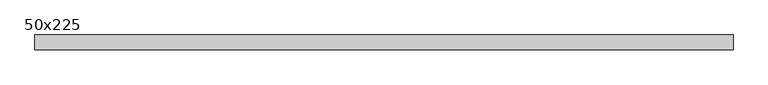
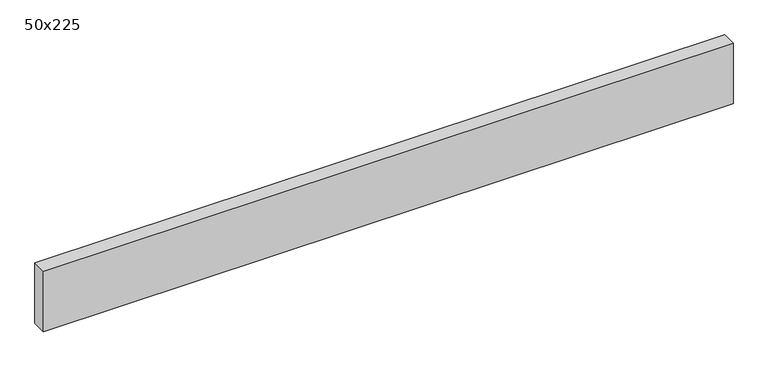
"""IFC4 building model written with IfcOpenShell, lengths in millimetres: beam geometry, Graded Timber : 50x225."""

from ifc_helpers import new_model, si_unit, frame, origin, place, context, project, spatial, polyline, outline, extrude, source, transform, mapped, element, save


def beam_50x225_8d1551ed(model_context):
    return source(origin(), model_context, "Body", "SweptSolid", [
        extrude(outline(polyline([(1183.0, 25.0), (1183.0, -25.0), (-1183.0, -25.0), (-1183.0, 25.0), (1183.0, 25.0)])), frame((0.0, 0.0, -110.0), z_axis=(0.0, 0.0, 1.0), x_axis=(1.0, 0.0, 0.0)), (0.0, 0.0, 1.0), 220.0),
    ])


if __name__ == "__main__":
    model = new_model("IFC4")
    model_context = context("Model", 3, world=origin())
    ifc_project = project(units=[si_unit("LENGTHUNIT", "METRE", prefix="MILLI")], contexts=[model_context])
    site = spatial("IfcSite", under=ifc_project)
    building = spatial("IfcBuilding", under=site)
    placement = place(None, origin())
    beam_50x225_shape = beam_50x225_8d1551ed(model_context)
    element("IfcBeam", 1, ObjectType="Graded Timber : 50x225", at=placement, inside=building, context=model_context, shape_type="MappedRepresentation", body=[
        mapped(beam_50x225_shape, transform((0.0, 0.0, 0.0), x_axis=(1.0, 0.0, 0.0), y_axis=(0.0, 1.0, 0.0), z_axis=(0.0, 0.0, 1.0))),
    ])
    save(model, "model.ifc")
